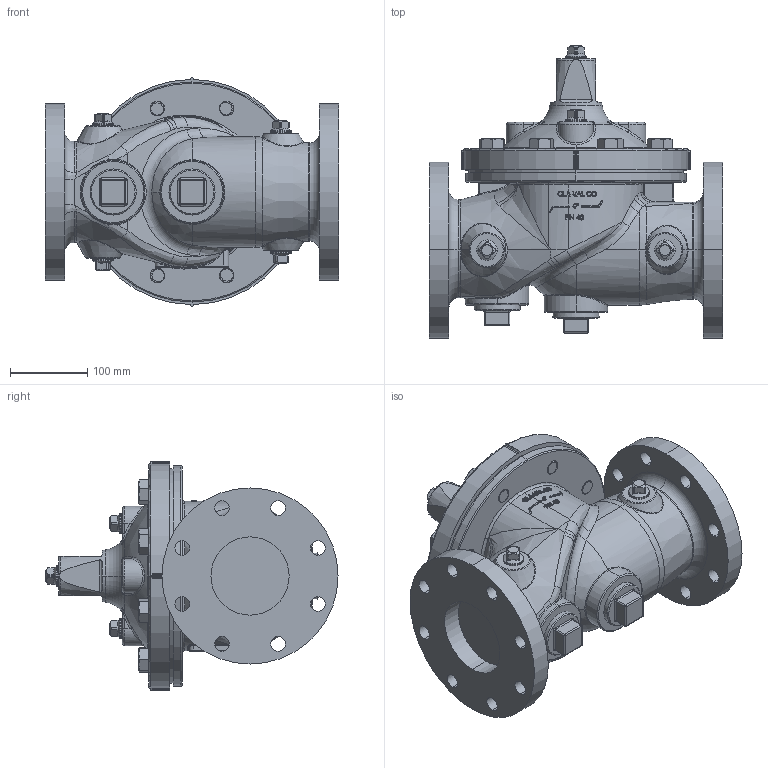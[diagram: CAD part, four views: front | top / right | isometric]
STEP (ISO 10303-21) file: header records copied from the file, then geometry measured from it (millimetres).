
FILE_DESCRIPTION (( 'STEP AP203' ), '1' );
FILE_NAME ('4in 100G Main Valve, 150LB Flat Face.STEP', '2023-10-30T16:55:07', ( '' ), ( '' ), 'SwSTEP 2.0', 'SolidWorks 2022', '' );
FILE_SCHEMA (( 'CONFIG_CONTROL_DESIGN' ));
Length unit declared in the file: inch
Products named in the file (6): 4in Cover (no core)_Default DI; 4in Body 100G 150A STD (RED)_150 FLAT FACE; 2.0 NPT SQ HD PIPE PLUG (67660)_316 SST; 4in 100G Main Valve, 150LB Flat Face; .750 NPT PIPE PLUG (67660)_MONEL; Bolt .750-10 UNC  (67609)_1.75   67609-04A
Assembly tree (19 placements, depth 2):
  4in 100G Main Valve, 150LB Flat Face
    Bolt .750-10 UNC  (67609)_1.75   67609-04A  x8
    4in Cover (no core)_Default DI
    4in Body 100G 150A STD (RED)_150 FLAT FACE
    .750 NPT PIPE PLUG (67660)_MONEL  x7
    2.0 NPT SQ HD PIPE PLUG (67660)_316 SST  x2
Bounding box: 381 x 379.3 x 297.69 mm (x, y, z)
Volume: 11996849.5 mm3; surface area: 921011.4 mm2
Topology: 20 solids, 22 shells, 2079 faces, 4768 edges, 2679 vertices
Faces by surface type: cylinder 492, cone 478, bspline 374, plane 370, torus 214, sphere 151
Entity records: 53131 total; most frequent: CARTESIAN_POINT 24133, ORIENTED_EDGE 6028, DIRECTION 5706, EDGE_CURVE 3014, AXIS2_PLACEMENT_3D 2413, VERTEX_POINT 1786, EDGE_LOOP 1426, CIRCLE 1374
